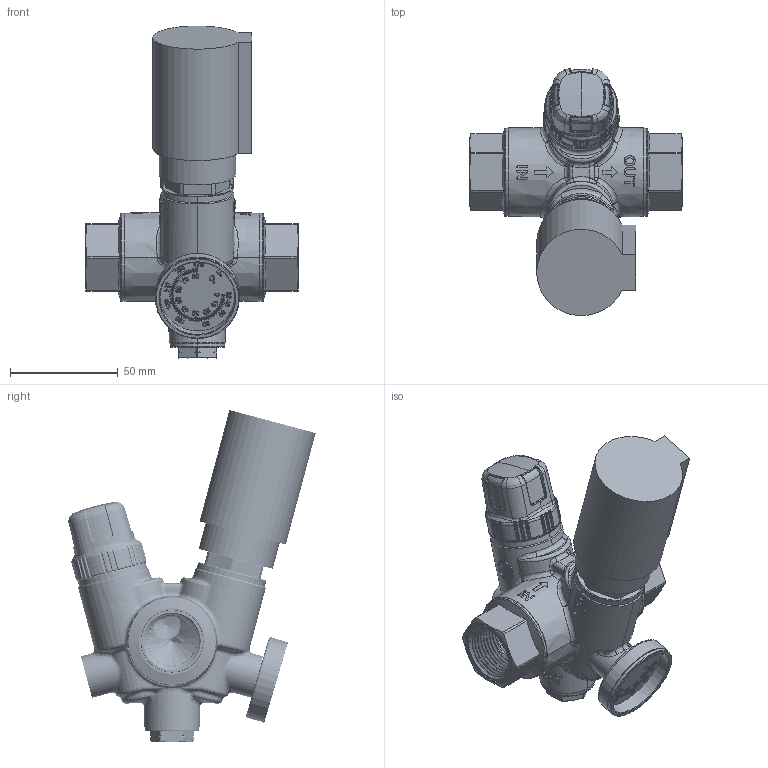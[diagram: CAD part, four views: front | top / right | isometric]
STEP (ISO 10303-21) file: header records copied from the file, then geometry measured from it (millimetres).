
FILE_DESCRIPTION(('Open CASCADE Model'),'2;1');
FILE_NAME('Open CASCADE Shape Model','2022-08-03T09:28:47',('Author'),( 'Open CASCADE'),'Open CASCADE STEP processor 7.3','Open CASCADE 7.3' ,'Unknown');
FILE_SCHEMA(('AUTOMOTIVE_DESIGN { 1 0 10303 214 1 1 1 1 }'));
Length unit declared in the file: millimetre
Products named in the file (20): Open CASCADE STEP translator 7.3 1; Open CASCADE STEP translator 7.3 1.1; Open CASCADE STEP translator 7.3 1.2; Open CASCADE STEP translator 7.3 1.3; Open CASCADE STEP translator 7.3 1.4; Open CASCADE STEP translator 7.3 1.5; Open CASCADE STEP translator 7.3 1.6; Open CASCADE STEP translator 7.3 1.7; Open CASCADE STEP translator 7.3 1.8; Open CASCADE STEP translator 7.3 1.9; Open CASCADE STEP translator 7.3 1.10; Open CASCADE STEP translator 7.3 1.11; Open CASCADE STEP translator 7.3 1.12; Open CASCADE STEP translator 7.3 1.13; Open CASCADE STEP translator 7.3 1.14; Open CASCADE STEP translator 7.3 1.15; Open CASCADE STEP translator 7.3 1.16; Open CASCADE STEP translator 7.3 1.17; Open CASCADE STEP translator 7.3 1.18; Open CASCADE STEP translator 7.3 1.19
Assembly tree (19 placements, depth 2):
  Open CASCADE STEP translator 7.3 1
    Open CASCADE STEP translator 7.3 1.1
    Open CASCADE STEP translator 7.3 1.2
    Open CASCADE STEP translator 7.3 1.3
    Open CASCADE STEP translator 7.3 1.4
    Open CASCADE STEP translator 7.3 1.5
    Open CASCADE STEP translator 7.3 1.6
    Open CASCADE STEP translator 7.3 1.7
    Open CASCADE STEP translator 7.3 1.8
    Open CASCADE STEP translator 7.3 1.9
    Open CASCADE STEP translator 7.3 1.10
    Open CASCADE STEP translator 7.3 1.11
    Open CASCADE STEP translator 7.3 1.12
    Open CASCADE STEP translator 7.3 1.13
    Open CASCADE STEP translator 7.3 1.14
    Open CASCADE STEP translator 7.3 1.15
    Open CASCADE STEP translator 7.3 1.16
    Open CASCADE STEP translator 7.3 1.17
    Open CASCADE STEP translator 7.3 1.18
    Open CASCADE STEP translator 7.3 1.19
Bounding box: 99 x 114.98 x 154.4 mm (x, y, z)
Volume: 223335.8 mm3; surface area: 101374.5 mm2
Topology: 19 solids, 20 shells, 4599 faces, 11858 edges, 7472 vertices
Faces by surface type: extrusion 1173, plane 1086, cylinder 976, bspline 558, cone 411, torus 295, sphere 52, revolution 48
Full cylindrical faces by diameter (mm): 35.672 x1
Entity records: 500324 total; most frequent: CARTESIAN_POINT 292791, DIRECTION 28041, ORIENTED_EDGE 23680, PCURVE 23680, DEFINITIONAL_REPRESENTATION 23680, B_SPLINE_CURVE_WITH_KNOTS 18073, VECTOR 15730, LINE 14557
